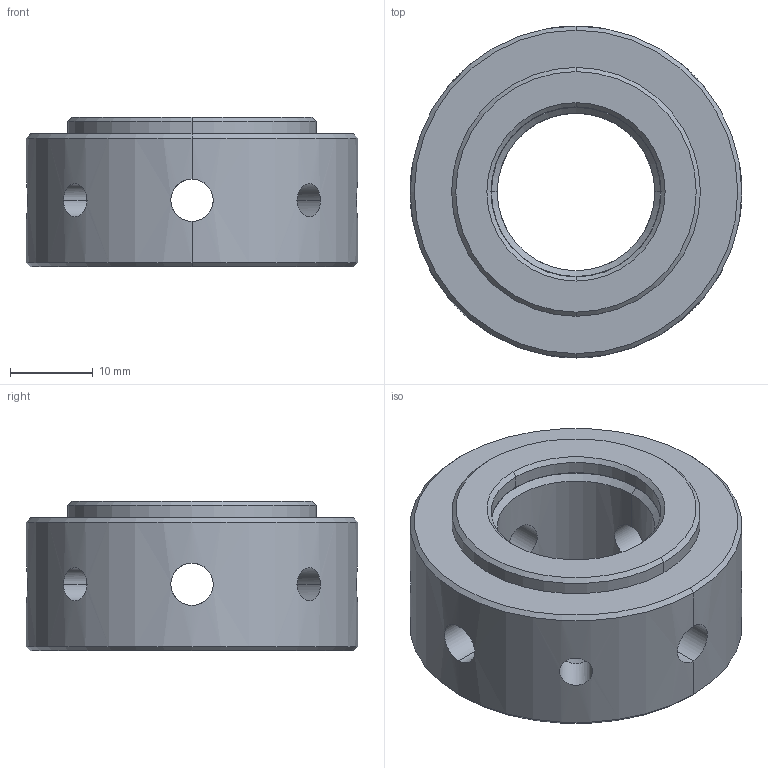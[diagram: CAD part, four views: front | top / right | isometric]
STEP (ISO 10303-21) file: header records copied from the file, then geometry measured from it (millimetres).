
FILE_DESCRIPTION (( 'STEP AP203' ), '1' );
FILE_NAME ('WBK20.STEP', '2013-01-07T05:08:01', ( '' ), ( '' ), 'SwSTEP 2.0', 'SolidWorks 2012', '' );
FILE_SCHEMA (( 'CONFIG_CONTROL_DESIGN' ));
Length unit declared in the file: millimetre
Products named in the file (1): WBK20
Bounding box: 40 x 40 x 18 mm (x, y, z)
Volume: 14848.5 mm3; surface area: 6016.8 mm2
Topology: 1 solids, 1 shells, 64 faces, 156 edges, 84 vertices
Faces by surface type: cylinder 32, cone 28, plane 4
Entity records: 2485 total; most frequent: CARTESIAN_POINT 993, DIRECTION 298, ORIENTED_EDGE 280, EDGE_CURVE 140, AXIS2_PLACEMENT_3D 117, VERTEX_POINT 84, EDGE_LOOP 80, LINE 64
